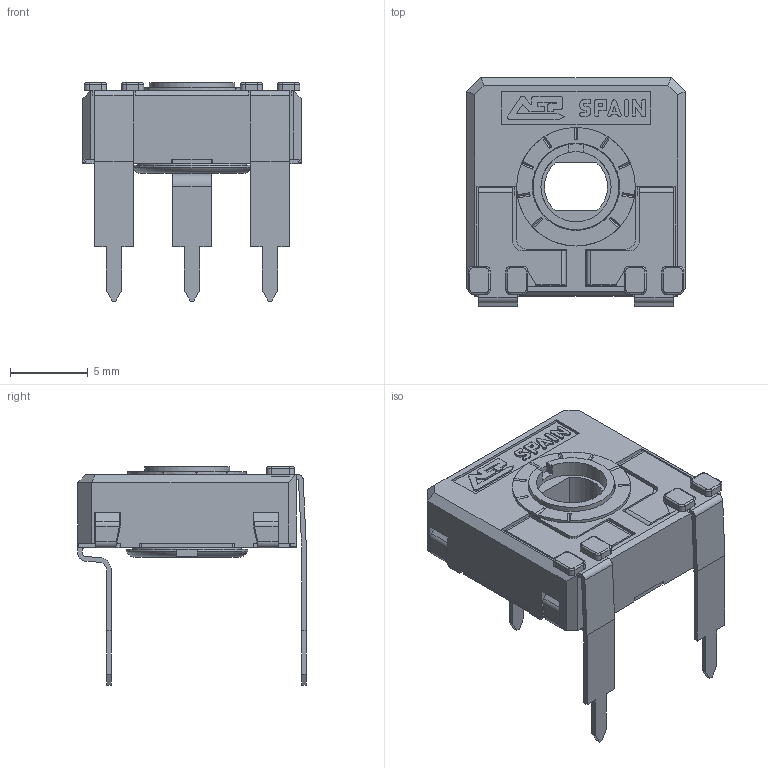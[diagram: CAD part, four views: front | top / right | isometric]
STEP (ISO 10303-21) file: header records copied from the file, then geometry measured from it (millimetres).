
FILE_DESCRIPTION(/* description */ (''),/* implementation_level */ '2;1');
FILE_NAME(/* name */ '\\SERVERACP\intercambio\Ignacio Santa Cecilia\Nueva WEB 2025\CA14 - CE14\CA14NVL12,5.stp',/* time_stamp */ '2025-06-06T10:15:48+02:00',/* author */ ('CEM'),/* organization */ (''),/* preprocessor_version */ 'ST-DEVELOPER v17',/* originating_system */ 'Autodesk Inventor 2018',/* authorisation */ '');
FILE_SCHEMA (('AUTOMOTIVE_DESIGN { 1 0 10303 214 3 1 1 }'));
Length unit declared in the file: millimetre
Products named in the file (1): CARCASA CA14 PGA
Bounding box: 14 x 14.65 x 14 mm (x, y, z)
Volume: 543.9 mm3; surface area: 1548.8 mm2
Topology: 1 solids, 1 shells, 682 faces, 1932 edges, 1246 vertices
Faces by surface type: plane 502, cylinder 143, torus 23, bspline 8, cone 6
Full cylindrical faces by diameter (mm): 4.5 x1, 5.5 x1, 5.6 x1, 5.752 x1, 6.8 x1, 7.6 x1
Entity records: 22336 total; most frequent: CARTESIAN_POINT 4158, ORIENTED_EDGE 3864, DIRECTION 3609, EDGE_CURVE 1932, LINE 1515, VECTOR 1515, VERTEX_POINT 1246, AXIS2_PLACEMENT_3D 1047
